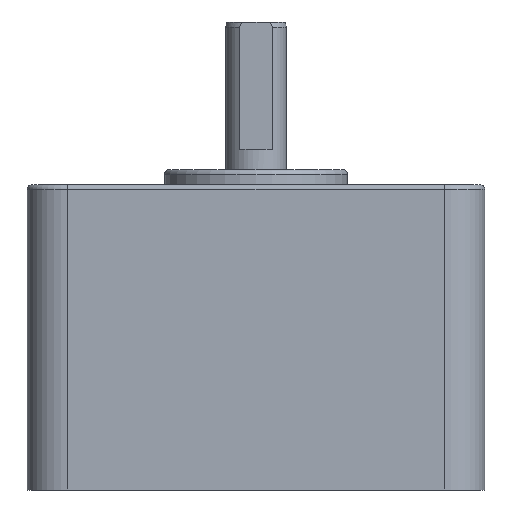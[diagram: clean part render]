
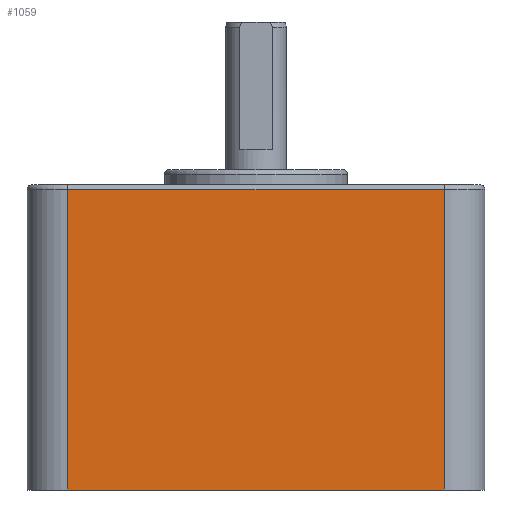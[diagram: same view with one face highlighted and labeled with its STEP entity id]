
A CAD part, front view. The second image highlights one B-rep face of the part: STEP entity #1059.
In plain terms, the highlighted planar face has unit normal (0, -1, 0).
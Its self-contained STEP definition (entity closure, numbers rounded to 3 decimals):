
#756=CARTESIAN_POINT('',(82.,0.0,59.0));
#757=VERTEX_POINT('',#756);
#766=CARTESIAN_POINT('',(8.,0.0,59.0));
#767=VERTEX_POINT('',#766);
#775=CARTESIAN_POINT('',(8.,0.0,59.0));
#776=DIRECTION('',(1.0,0.0,0.0));
#777=VECTOR('',#776,74.);
#778=LINE('',#775,#777);
#779=EDGE_CURVE('',#767,#757,#778,.T.);
#1017=CARTESIAN_POINT('',(82.,0.0,0.0));
#1018=VERTEX_POINT('',#1017);
#1019=CARTESIAN_POINT('',(82.,0.0,59.0));
#1020=DIRECTION('',(0.0,0.0,-1.0));
#1021=VECTOR('',#1020,59.0);
#1022=LINE('',#1019,#1021);
#1023=EDGE_CURVE('',#757,#1018,#1022,.T.);
#1036=CARTESIAN_POINT('',(90.,0.0,0.0));
#1037=DIRECTION('',(0.0,-1.0,0.0));
#1038=DIRECTION('',(0.0,0.0,-1.0));
#1039=AXIS2_PLACEMENT_3D('',#1036,#1037,#1038);
#1040=PLANE('',#1039);
#1041=ORIENTED_EDGE('',*,*,#779,.F.);
#1042=CARTESIAN_POINT('',(8.,0.0,0.0));
#1043=VERTEX_POINT('',#1042);
#1044=CARTESIAN_POINT('',(8.,0.0,0.0));
#1045=DIRECTION('',(0.0,0.0,1.0));
#1046=VECTOR('',#1045,59.0);
#1047=LINE('',#1044,#1046);
#1048=EDGE_CURVE('',#1043,#767,#1047,.T.);
#1049=ORIENTED_EDGE('',*,*,#1048,.F.);
#1050=CARTESIAN_POINT('',(8.,0.0,0.0));
#1051=DIRECTION('',(1.0,0.0,0.0));
#1052=VECTOR('',#1051,74.);
#1053=LINE('',#1050,#1052);
#1054=EDGE_CURVE('',#1043,#1018,#1053,.T.);
#1055=ORIENTED_EDGE('',*,*,#1054,.T.);
#1056=ORIENTED_EDGE('',*,*,#1023,.F.);
#1057=EDGE_LOOP('',(#1041,#1049,#1055,#1056));
#1058=FACE_OUTER_BOUND('',#1057,.T.);
#1059=ADVANCED_FACE('',(#1058),#1040,.T.);
